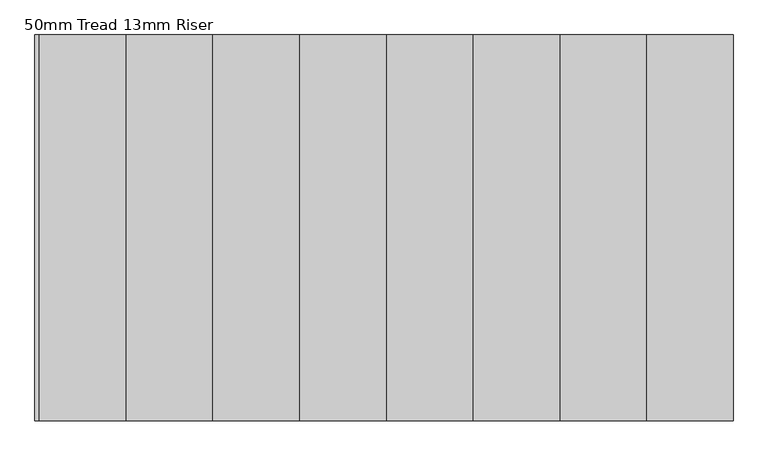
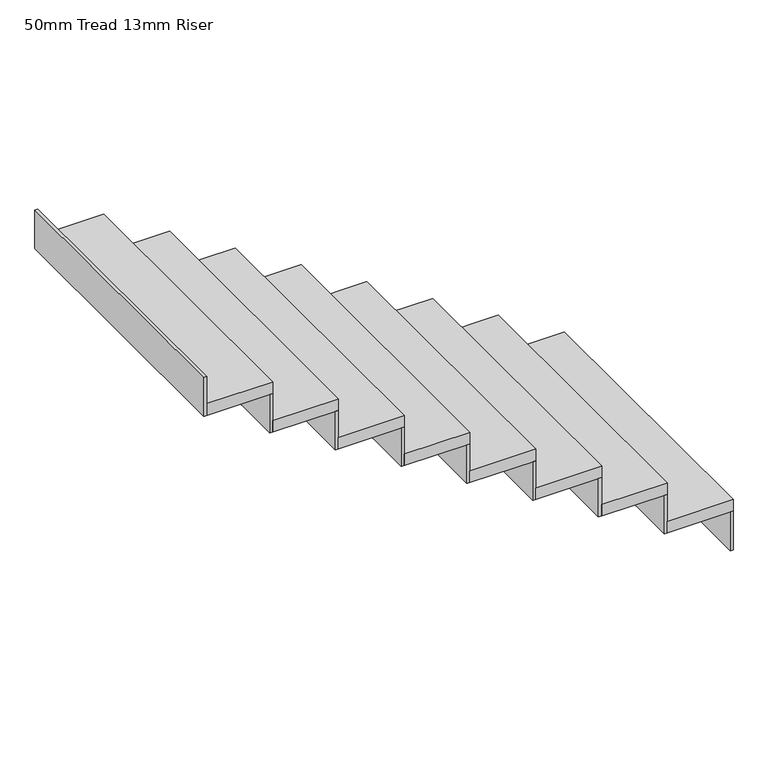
"""IFC4 building model written with IfcOpenShell, lengths in millimetres: stair flight geometry, 50mm Tread 13mm Riser."""

from ifc_helpers import new_model, si_unit, frame, origin, place, context, project, spatial, polyline, outline, extrude, source, transform, mapped, element, save


def stair_flight_50mm_tread_13mm_riser_03961c6e(model_context):
    return source(origin(), model_context, "Body", "SweptSolid", [
        extrude(outline(polyline([(-103470.3719448, 38178.2777512), (-103457.8719448, 38178.2777512), (-103457.8719448, 36978.2777512), (-103470.3719448, 36978.2777512), (-103470.3719448, 38178.2777512)])), frame((0.0, 0.0, 45105.0), z_axis=(0.0, 0.0, 1.0), x_axis=(1.0, 0.0, 0.0)), (0.0, 0.0, 1.0), 167.5),
        extrude(outline(polyline([(-103727.8719448, 36978.2777512), (-103727.8719448, 38178.2777512), (-103457.8719448, 38178.2777512), (-103457.8719448, 36978.2777512), (-103727.8719448, 36978.2777512)])), frame((0.0, 0.0, 45272.5), z_axis=(0.0, 0.0, 1.0), x_axis=(1.0, 0.0, 0.0)), (0.0, 0.0, 1.0), 50.0),
        extrude(outline(polyline([(-103740.3719448, 38178.2777512), (-103727.8719448, 38178.2777512), (-103727.8719448, 36978.2777512), (-103740.3719448, 36978.2777512), (-103740.3719448, 38178.2777512)])), frame((0.0, 0.0, 45272.5), z_axis=(0.0, 0.0, 1.0), x_axis=(1.0, 0.0, 0.0)), (0.0, 0.0, 1.0), 167.5),
        extrude(outline(polyline([(-103997.8719448, 36978.2777512), (-103997.8719448, 38178.2777512), (-103727.8719448, 38178.2777512), (-103727.8719448, 36978.2777512), (-103997.8719448, 36978.2777512)])), frame((0.0, 0.0, 45440.0), z_axis=(0.0, 0.0, 1.0), x_axis=(1.0, 0.0, 0.0)), (0.0, 0.0, 1.0), 50.0),
        extrude(outline(polyline([(-104010.3719448, 38178.2777512), (-103997.8719448, 38178.2777512), (-103997.8719448, 36978.2777512), (-104010.3719448, 36978.2777512), (-104010.3719448, 38178.2777512)])), frame((0.0, 0.0, 45440.0), z_axis=(0.0, 0.0, 1.0), x_axis=(1.0, 0.0, 0.0)), (0.0, 0.0, 1.0), 167.5),
        extrude(outline(polyline([(-104267.8719448, 36978.2777512), (-104267.8719448, 38178.2777512), (-103997.8719448, 38178.2777512), (-103997.8719448, 36978.2777512), (-104267.8719448, 36978.2777512)])), frame((0.0, 0.0, 45607.5), z_axis=(0.0, 0.0, 1.0), x_axis=(1.0, 0.0, 0.0)), (0.0, 0.0, 1.0), 50.0),
        extrude(outline(polyline([(-104280.3719448, 38178.2777512), (-104267.8719448, 38178.2777512), (-104267.8719448, 36978.2777512), (-104280.3719448, 36978.2777512), (-104280.3719448, 38178.2777512)])), frame((0.0, 0.0, 45607.5), z_axis=(0.0, 0.0, 1.0), x_axis=(1.0, 0.0, 0.0)), (0.0, 0.0, 1.0), 167.5),
        extrude(outline(polyline([(-104537.8719448, 36978.2777512), (-104537.8719448, 38178.2777512), (-104267.8719448, 38178.2777512), (-104267.8719448, 36978.2777512), (-104537.8719448, 36978.2777512)])), frame((0.0, 0.0, 45775.0), z_axis=(0.0, 0.0, 1.0), x_axis=(1.0, 0.0, 0.0)), (0.0, 0.0, 1.0), 50.0),
        extrude(outline(polyline([(-104550.3719448, 38178.2777512), (-104537.8719448, 38178.2777512), (-104537.8719448, 36978.2777512), (-104550.3719448, 36978.2777512), (-104550.3719448, 38178.2777512)])), frame((0.0, 0.0, 45775.0), z_axis=(0.0, 0.0, 1.0), x_axis=(1.0, 0.0, 0.0)), (0.0, 0.0, 1.0), 167.5),
        extrude(outline(polyline([(-104807.8719448, 36978.2777512), (-104807.8719448, 38178.2777512), (-104537.8719448, 38178.2777512), (-104537.8719448, 36978.2777512), (-104807.8719448, 36978.2777512)])), frame((0.0, 0.0, 45942.5), z_axis=(0.0, 0.0, 1.0), x_axis=(1.0, 0.0, 0.0)), (0.0, 0.0, 1.0), 50.0),
        extrude(outline(polyline([(-104820.3719448, 38178.2777512), (-104807.8719448, 38178.2777512), (-104807.8719448, 36978.2777512), (-104820.3719448, 36978.2777512), (-104820.3719448, 38178.2777512)])), frame((0.0, 0.0, 45942.5), z_axis=(0.0, 0.0, 1.0), x_axis=(1.0, 0.0, 0.0)), (0.0, 0.0, 1.0), 167.5),
        extrude(outline(polyline([(-105077.8719448, 36978.2777512), (-105077.8719448, 38178.2777512), (-104807.8719448, 38178.2777512), (-104807.8719448, 36978.2777512), (-105077.8719448, 36978.2777512)])), frame((0.0, 0.0, 46110.0), z_axis=(0.0, 0.0, 1.0), x_axis=(1.0, 0.0, 0.0)), (0.0, 0.0, 1.0), 50.0),
        extrude(outline(polyline([(-105090.3719448, 38178.2777512), (-105077.8719448, 38178.2777512), (-105077.8719448, 36978.2777512), (-105090.3719448, 36978.2777512), (-105090.3719448, 38178.2777512)])), frame((0.0, 0.0, 46110.0), z_axis=(0.0, 0.0, 1.0), x_axis=(1.0, 0.0, 0.0)), (0.0, 0.0, 1.0), 167.5),
        extrude(outline(polyline([(-105347.8719448, 36978.2777512), (-105347.8719448, 38178.2777512), (-105077.8719448, 38178.2777512), (-105077.8719448, 36978.2777512), (-105347.8719448, 36978.2777512)])), frame((0.0, 0.0, 46277.5), z_axis=(0.0, 0.0, 1.0), x_axis=(1.0, 0.0, 0.0)), (0.0, 0.0, 1.0), 50.0),
        extrude(outline(polyline([(-105360.3719448, 38178.2777512), (-105347.8719448, 38178.2777512), (-105347.8719448, 36978.2777512), (-105360.3719448, 36978.2777512), (-105360.3719448, 38178.2777512)])), frame((0.0, 0.0, 46277.5), z_axis=(0.0, 0.0, 1.0), x_axis=(1.0, 0.0, 0.0)), (0.0, 0.0, 1.0), 167.5),
        extrude(outline(polyline([(-105630.3719448, 38178.2777512), (-105617.8719448, 38178.2777512), (-105617.8719448, 36978.2777512), (-105630.3719448, 36978.2777512), (-105630.3719448, 38178.2777512)])), frame((0.0, 0.0, 46445.0), z_axis=(0.0, 0.0, 1.0), x_axis=(1.0, 0.0, 0.0)), (0.0, 0.0, 1.0), 167.5),
        extrude(outline(polyline([(-105617.8719448, 36978.2777512), (-105617.8719448, 38178.2777512), (-105347.8719448, 38178.2777512), (-105347.8719448, 36978.2777512), (-105617.8719448, 36978.2777512)])), frame((0.0, 0.0, 46445.0), z_axis=(0.0, 0.0, 1.0), x_axis=(1.0, 0.0, 0.0)), (0.0, 0.0, 1.0), 50.0),
    ])


if __name__ == "__main__":
    model = new_model("IFC4")
    model_context = context("Model", 3, world=origin())
    ifc_project = project(units=[si_unit("LENGTHUNIT", "METRE", prefix="MILLI")], contexts=[model_context])
    site = spatial("IfcSite", under=ifc_project)
    building = spatial("IfcBuilding", under=site)
    placement = place(None, origin())
    stair_flight_50mm_tread_13mm_riser_shape = stair_flight_50mm_tread_13mm_riser_03961c6e(model_context)
    element("IfcStairFlight", 1, ObjectType="50mm Tread 13mm Riser", at=placement, inside=building, context=model_context, shape_type="MappedRepresentation", body=[
        mapped(stair_flight_50mm_tread_13mm_riser_shape, transform((0.0, 0.0, 0.0), x_axis=(1.0, 0.0, 0.0), y_axis=(0.0, 1.0, 0.0), z_axis=(0.0, 0.0, 1.0))),
    ])
    save(model, "model.ifc")
